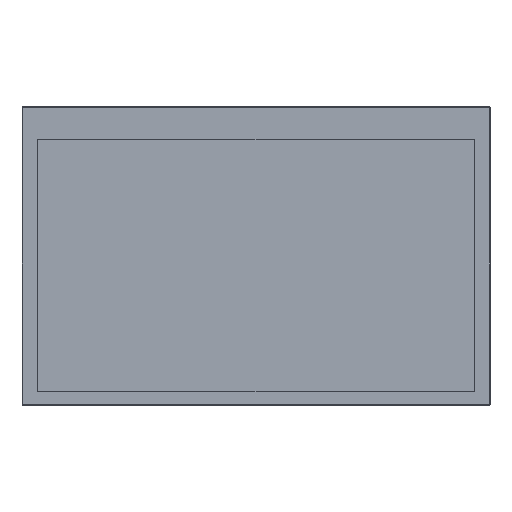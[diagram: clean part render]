
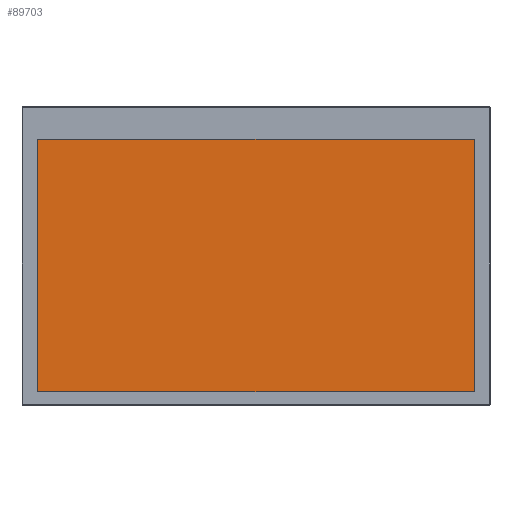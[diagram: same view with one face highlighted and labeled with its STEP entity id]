
A CAD part, top view. The second image highlights one B-rep face of the part: STEP entity #89703.
In plain terms, the highlighted planar face has unit normal (0, 0, 1) as drawn and (0, 1, 0) by its records, which use the part's own axes.
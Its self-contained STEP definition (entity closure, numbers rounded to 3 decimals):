
#8450=FACE_OUTER_BOUND('',#13089,.T.);
#13089=EDGE_LOOP('',(#77558,#77559,#77560,#77561));
#22919=LINE('',#152340,#32763);
#22922=LINE('',#152346,#32766);
#22925=LINE('',#152352,#32769);
#22928=LINE('',#152356,#32772);
#32763=VECTOR('',#116914,10.);
#32766=VECTOR('',#116919,10.);
#32769=VECTOR('',#116924,10.);
#32772=VECTOR('',#116929,10.);
#40773=VERTEX_POINT('',#152337);
#40774=VERTEX_POINT('',#152339);
#40776=VERTEX_POINT('',#152345);
#40778=VERTEX_POINT('',#152351);
#53034=EDGE_CURVE('',#40774,#40773,#22919,.T.);
#53037=EDGE_CURVE('',#40776,#40774,#22922,.T.);
#53040=EDGE_CURVE('',#40778,#40776,#22925,.T.);
#53043=EDGE_CURVE('',#40773,#40778,#22928,.T.);
#77558=ORIENTED_EDGE('',*,*,#53043,.T.);
#77559=ORIENTED_EDGE('',*,*,#53040,.T.);
#77560=ORIENTED_EDGE('',*,*,#53037,.T.);
#77561=ORIENTED_EDGE('',*,*,#53034,.T.);
#80834=PLANE('',#95818);
#89703=ADVANCED_FACE('',(#8450),#80834,.T.);
#95818=AXIS2_PLACEMENT_3D('',#152357,#116930,#116931);
#116914=DIRECTION('',(-1.,0.,0.));
#116919=DIRECTION('',(0.,0.,-1.));
#116924=DIRECTION('',(1.,0.,0.));
#116929=DIRECTION('',(0.,0.,1.));
#116930=DIRECTION('center_axis',(0.,1.,0.));
#116931=DIRECTION('ref_axis',(0.,0.,1.));
#152337=CARTESIAN_POINT('',(-49.3,3.,-26.35));
#152339=CARTESIAN_POINT('',(49.3,3.,-26.35));
#152340=CARTESIAN_POINT('',(49.3,3.,-26.35));
#152345=CARTESIAN_POINT('',(49.3,3.,30.65));
#152346=CARTESIAN_POINT('',(49.3,3.,30.65));
#152351=CARTESIAN_POINT('',(-49.3,3.,30.65));
#152352=CARTESIAN_POINT('',(-49.3,3.,30.65));
#152356=CARTESIAN_POINT('',(-49.3,3.,-26.35));
#152357=CARTESIAN_POINT('Origin',(0.,3.,2.15));
